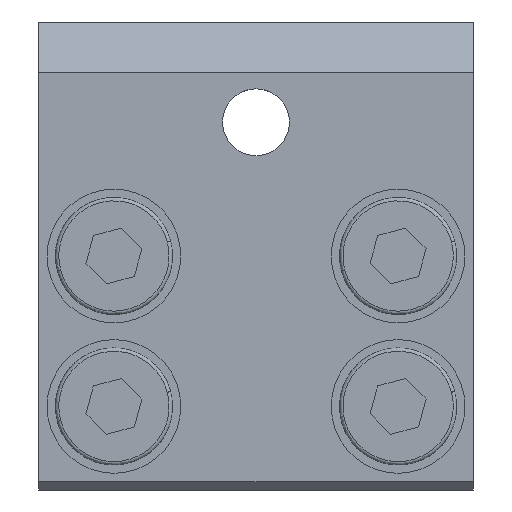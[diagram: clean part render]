
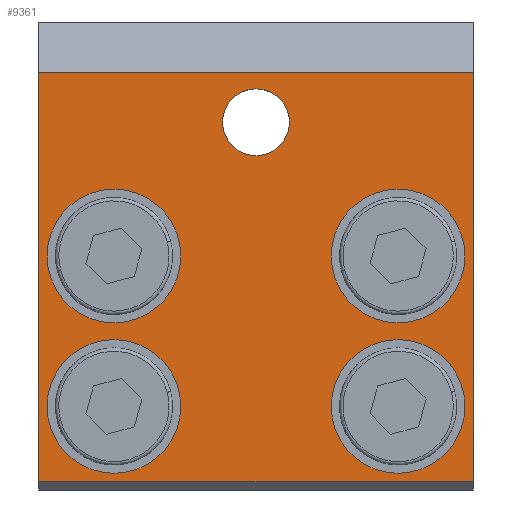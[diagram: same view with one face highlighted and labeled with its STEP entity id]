
A CAD part, front view. The second image highlights one B-rep face of the part: STEP entity #9361.
In plain terms, the highlighted planar face has unit normal (0, -1, 0).
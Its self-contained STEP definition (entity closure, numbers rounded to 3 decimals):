
#269 = DIRECTION ( 'NONE',  ( 0., 0., -1. ) ) ;
#409 = AXIS2_PLACEMENT_3D ( 'NONE', #32247, #28692, #38703 ) ;
#424 = DIRECTION ( 'NONE',  ( 0., 0., 1. ) ) ;
#747 = AXIS2_PLACEMENT_3D ( 'NONE', #41756, #7209, #27904 ) ;
#976 = CARTESIAN_POINT ( 'NONE',  ( -33.813, -9.385, 11. ) ) ;
#1066 = CARTESIAN_POINT ( 'NONE',  ( -33.813, -9.385, -13.5 ) ) ;
#1371 = EDGE_LOOP ( 'NONE', ( #43221, #21407 ) ) ;
#1372 = EDGE_CURVE ( 'NONE', #43841, #42232, #12743, .T. ) ;
#2252 = CARTESIAN_POINT ( 'NONE',  ( -29.313, -9.385, 4. ) ) ;
#2274 = EDGE_CURVE ( 'NONE', #24795, #43217, #31254, .T. ) ;
#2928 = CARTESIAN_POINT ( 'NONE',  ( -29.313, -9.385, -9. ) ) ;
#3046 = CIRCLE ( 'NONE', #41865, 4. ) ;
#3054 = CARTESIAN_POINT ( 'NONE',  ( -20.813, -9.385, 6. ) ) ;
#3171 = DIRECTION ( 'NONE',  ( 0., -1., 0. ) ) ;
#3492 = ORIENTED_EDGE ( 'NONE', *, *, #14850, .F. ) ;
#3726 = CARTESIAN_POINT ( 'NONE',  ( -29.313, -9.385, -13. ) ) ;
#3834 = FACE_OUTER_BOUND ( 'NONE', #40248, .T. ) ;
#4645 = EDGE_CURVE ( 'NONE', #42232, #43841, #29903, .T. ) ;
#5831 = LINE ( 'NONE', #25228, #19305 ) ;
#6090 = DIRECTION ( 'NONE',  ( 1., 0., 0. ) ) ;
#7153 = AXIS2_PLACEMENT_3D ( 'NONE', #7157, #34559, #424 ) ;
#7157 = CARTESIAN_POINT ( 'NONE',  ( -33.813, -9.385, -13.5 ) ) ;
#7209 = DIRECTION ( 'NONE',  ( 0., -1., 0. ) ) ;
#8101 = FACE_BOUND ( 'NONE', #33140, .T. ) ;
#8344 = ORIENTED_EDGE ( 'NONE', *, *, #2274, .F. ) ;
#9178 = VERTEX_POINT ( 'NONE', #12460 ) ;
#9361 = ADVANCED_FACE ( 'NONE', ( #26353, #17262, #8101, #43461, #34382, #3834 ), #10647, .F. ) ;
#9459 = EDGE_CURVE ( 'NONE', #11005, #40272, #3046, .T. ) ;
#9666 = VECTOR ( 'NONE', #269, 1000. ) ;
#9903 = DIRECTION ( 'NONE',  ( 0., -1., 0. ) ) ;
#9960 = CIRCLE ( 'NONE', #409, 4. ) ;
#10081 = DIRECTION ( 'NONE',  ( 0., 0., -1. ) ) ;
#10647 = PLANE ( 'NONE',  #7153 ) ;
#11005 = VERTEX_POINT ( 'NONE', #2252 ) ;
#11219 = DIRECTION ( 'NONE',  ( 0., 0., -1. ) ) ;
#11373 = VERTEX_POINT ( 'NONE', #35166 ) ;
#12460 = CARTESIAN_POINT ( 'NONE',  ( -12.313, -9.385, -13. ) ) ;
#12743 = CIRCLE ( 'NONE', #31525, 4. ) ;
#12828 = DIRECTION ( 'NONE',  ( 0., -1., 0. ) ) ;
#13137 = AXIS2_PLACEMENT_3D ( 'NONE', #2928, #40637, #39722 ) ;
#13663 = CIRCLE ( 'NONE', #13137, 4. ) ;
#14850 = EDGE_CURVE ( 'NONE', #40272, #11005, #9960, .T. ) ;
#15225 = VECTOR ( 'NONE', #6090, 1000. ) ;
#16515 = ORIENTED_EDGE ( 'NONE', *, *, #1372, .F. ) ;
#16521 = DIRECTION ( 'NONE',  ( 0., 0., -1. ) ) ;
#16565 = EDGE_CURVE ( 'NONE', #43217, #11373, #39601, .T. ) ;
#16784 = DIRECTION ( 'NONE',  ( 0., 0., -1. ) ) ;
#17231 = CARTESIAN_POINT ( 'NONE',  ( -7.813, -9.385, -1.25 ) ) ;
#17262 = FACE_BOUND ( 'NONE', #41662, .T. ) ;
#18185 = EDGE_CURVE ( 'NONE', #29652, #9178, #31528, .T. ) ;
#18544 = CARTESIAN_POINT ( 'NONE',  ( -29.313, -9.385, 0. ) ) ;
#19305 = VECTOR ( 'NONE', #29156, 1000. ) ;
#20175 = VERTEX_POINT ( 'NONE', #25442 ) ;
#20859 = AXIS2_PLACEMENT_3D ( 'NONE', #41500, #38522, #37952 ) ;
#21407 = ORIENTED_EDGE ( 'NONE', *, *, #23519, .F. ) ;
#21973 = EDGE_LOOP ( 'NONE', ( #41535, #38416 ) ) ;
#22538 = CARTESIAN_POINT ( 'NONE',  ( -29.313, -9.385, -9. ) ) ;
#22867 = EDGE_CURVE ( 'NONE', #40933, #30858, #35226, .T. ) ;
#23486 = ORIENTED_EDGE ( 'NONE', *, *, #34019, .T. ) ;
#23519 = EDGE_CURVE ( 'NONE', #30858, #40933, #42000, .T. ) ;
#23841 = LINE ( 'NONE', #35431, #33519 ) ;
#24795 = VERTEX_POINT ( 'NONE', #976 ) ;
#24943 = CARTESIAN_POINT ( 'NONE',  ( -7.813, -9.385, 11. ) ) ;
#25228 = CARTESIAN_POINT ( 'NONE',  ( -20.813, -9.385, -13.5 ) ) ;
#25442 = CARTESIAN_POINT ( 'NONE',  ( -29.313, -9.385, -5. ) ) ;
#25853 = DIRECTION ( 'NONE',  ( 0., 0., -1. ) ) ;
#26353 = FACE_BOUND ( 'NONE', #21973, .T. ) ;
#26662 = DIRECTION ( 'NONE',  ( 0., -1., 0. ) ) ;
#26696 = CARTESIAN_POINT ( 'NONE',  ( -12.313, -9.385, 4. ) ) ;
#26835 = AXIS2_PLACEMENT_3D ( 'NONE', #22538, #12828, #29580 ) ;
#27088 = ORIENTED_EDGE ( 'NONE', *, *, #9459, .F. ) ;
#27325 = AXIS2_PLACEMENT_3D ( 'NONE', #43721, #3171, #10081 ) ;
#27904 = DIRECTION ( 'NONE',  ( 0., 0., -1. ) ) ;
#27998 = CARTESIAN_POINT ( 'NONE',  ( -29.313, -9.385, -4. ) ) ;
#28027 = EDGE_CURVE ( 'NONE', #44021, #20175, #13663, .T. ) ;
#28692 = DIRECTION ( 'NONE',  ( 0., -1., 0. ) ) ;
#29156 = DIRECTION ( 'NONE',  ( -1., 0., 0. ) ) ;
#29370 = CARTESIAN_POINT ( 'NONE',  ( -12.313, -9.385, -5. ) ) ;
#29580 = DIRECTION ( 'NONE',  ( 0., 0., -1. ) ) ;
#29634 = CARTESIAN_POINT ( 'NONE',  ( -20.813, -9.385, 11. ) ) ;
#29652 = VERTEX_POINT ( 'NONE', #29370 ) ;
#29903 = CIRCLE ( 'NONE', #38034, 4. ) ;
#30858 = VERTEX_POINT ( 'NONE', #37695 ) ;
#31254 = LINE ( 'NONE', #29634, #15225 ) ;
#31401 = ORIENTED_EDGE ( 'NONE', *, *, #18185, .F. ) ;
#31525 = AXIS2_PLACEMENT_3D ( 'NONE', #37299, #26662, #16521 ) ;
#31528 = CIRCLE ( 'NONE', #27325, 4. ) ;
#32247 = CARTESIAN_POINT ( 'NONE',  ( -29.313, -9.385, 0. ) ) ;
#32480 = DIRECTION ( 'NONE',  ( 0., -1., 0. ) ) ;
#32764 = EDGE_CURVE ( 'NONE', #11373, #34502, #5831, .T. ) ;
#32897 = ORIENTED_EDGE ( 'NONE', *, *, #4645, .F. ) ;
#33095 = EDGE_CURVE ( 'NONE', #9178, #29652, #38027, .T. ) ;
#33140 = EDGE_LOOP ( 'NONE', ( #32897, #16515 ) ) ;
#33519 = VECTOR ( 'NONE', #25853, 1000. ) ;
#33711 = AXIS2_PLACEMENT_3D ( 'NONE', #33975, #9903, #16784 ) ;
#33975 = CARTESIAN_POINT ( 'NONE',  ( -20.813, -9.385, 8. ) ) ;
#34019 = EDGE_CURVE ( 'NONE', #24795, #34502, #23841, .T. ) ;
#34340 = EDGE_LOOP ( 'NONE', ( #3492, #27088 ) ) ;
#34382 = FACE_BOUND ( 'NONE', #1371, .T. ) ;
#34502 = VERTEX_POINT ( 'NONE', #1066 ) ;
#34559 = DIRECTION ( 'NONE',  ( 0., 1., 0. ) ) ;
#35166 = CARTESIAN_POINT ( 'NONE',  ( -7.813, -9.385, -13.5 ) ) ;
#35226 = CIRCLE ( 'NONE', #33711, 2. ) ;
#35431 = CARTESIAN_POINT ( 'NONE',  ( -33.813, -9.385, 0. ) ) ;
#35634 = DIRECTION ( 'NONE',  ( 0., 0., -1. ) ) ;
#36095 = CARTESIAN_POINT ( 'NONE',  ( -12.313, -9.385, 0. ) ) ;
#37299 = CARTESIAN_POINT ( 'NONE',  ( -12.313, -9.385, 0. ) ) ;
#37695 = CARTESIAN_POINT ( 'NONE',  ( -20.813, -9.385, 10. ) ) ;
#37952 = DIRECTION ( 'NONE',  ( 0., 0., -1. ) ) ;
#38027 = CIRCLE ( 'NONE', #747, 4. ) ;
#38034 = AXIS2_PLACEMENT_3D ( 'NONE', #36095, #32480, #35634 ) ;
#38048 = EDGE_CURVE ( 'NONE', #20175, #44021, #38634, .T. ) ;
#38416 = ORIENTED_EDGE ( 'NONE', *, *, #38048, .F. ) ;
#38522 = DIRECTION ( 'NONE',  ( 0., -1., 0. ) ) ;
#38634 = CIRCLE ( 'NONE', #26835, 4. ) ;
#38703 = DIRECTION ( 'NONE',  ( 0., 0., -1. ) ) ;
#39259 = CARTESIAN_POINT ( 'NONE',  ( -12.313, -9.385, -4. ) ) ;
#39601 = LINE ( 'NONE', #17231, #9666 ) ;
#39722 = DIRECTION ( 'NONE',  ( 0., 0., -1. ) ) ;
#39996 = ORIENTED_EDGE ( 'NONE', *, *, #33095, .F. ) ;
#40008 = ORIENTED_EDGE ( 'NONE', *, *, #16565, .F. ) ;
#40248 = EDGE_LOOP ( 'NONE', ( #41632, #40008, #8344, #23486 ) ) ;
#40272 = VERTEX_POINT ( 'NONE', #27998 ) ;
#40637 = DIRECTION ( 'NONE',  ( 0., -1., 0. ) ) ;
#40933 = VERTEX_POINT ( 'NONE', #3054 ) ;
#41500 = CARTESIAN_POINT ( 'NONE',  ( -20.813, -9.385, 8. ) ) ;
#41535 = ORIENTED_EDGE ( 'NONE', *, *, #28027, .F. ) ;
#41632 = ORIENTED_EDGE ( 'NONE', *, *, #32764, .F. ) ;
#41662 = EDGE_LOOP ( 'NONE', ( #39996, #31401 ) ) ;
#41756 = CARTESIAN_POINT ( 'NONE',  ( -12.313, -9.385, -9. ) ) ;
#41865 = AXIS2_PLACEMENT_3D ( 'NONE', #18544, #41987, #11219 ) ;
#41987 = DIRECTION ( 'NONE',  ( 0., -1., 0. ) ) ;
#42000 = CIRCLE ( 'NONE', #20859, 2. ) ;
#42232 = VERTEX_POINT ( 'NONE', #39259 ) ;
#43217 = VERTEX_POINT ( 'NONE', #24943 ) ;
#43221 = ORIENTED_EDGE ( 'NONE', *, *, #22867, .F. ) ;
#43461 = FACE_BOUND ( 'NONE', #34340, .T. ) ;
#43721 = CARTESIAN_POINT ( 'NONE',  ( -12.313, -9.385, -9. ) ) ;
#43841 = VERTEX_POINT ( 'NONE', #26696 ) ;
#44021 = VERTEX_POINT ( 'NONE', #3726 ) ;
